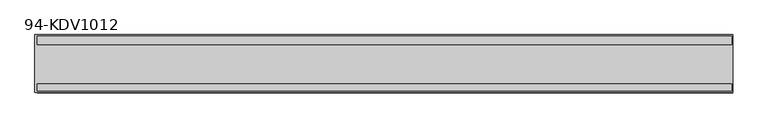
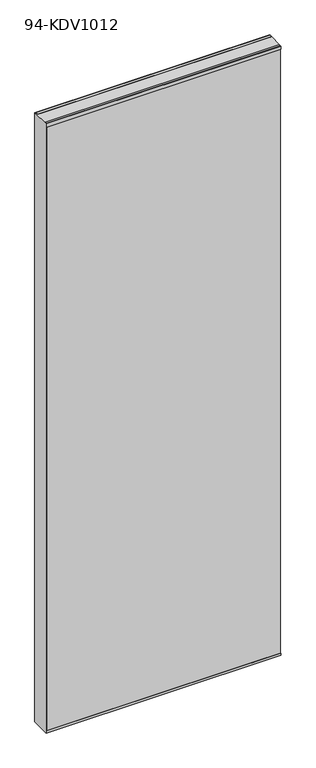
"""IFC4 building model written with IfcOpenShell, lengths in millimetres: plate geometry, PNX_VITRE_DV : 94-KDV1012."""

import ifcopenshell
import ifcopenshell.guid

model = None  # the IFC model being written
_history = None  # IfcOwnerHistory: only IFC2X3 demands one
_inside = {}  # id of a spatial element -> (the spatial element, [elements in it])
_under = {}  # id of a project, library or spatial element -> (it, [spatial elements below it])
_declared = {}  # id of a project -> (the project, [libraries it declares])
_typed = {}  # id of a type object -> (the type object, [elements of that type])
_made_of = {}  # id of a material, layer set ... -> (it, [elements and type objects made of it])


def new_model(schema):
    """Start an empty IFC model of exactly this schema.

    Asked for "IFC4X3", IfcOpenShell would pick the latest addendum, in which some entities
    have other attributes; the version numbers below select the first issue.
    IFC2X3 requires an IfcOwnerHistory on every rooted entity: one is made here for all.
    """
    global model, _history
    if schema == "IFC4X3":
        model = ifcopenshell.file(schema_version=(4, 3, 0, 0))
    else:
        model = ifcopenshell.file(schema=schema)
    _inside.clear()
    _under.clear()
    _declared.clear()
    _typed.clear()
    _made_of.clear()
    _history = None
    if model.schema == "IFC2X3":
        org = make("IfcOrganization", Name="unknown")
        user = make(
            "IfcPersonAndOrganization",
            ThePerson=make("IfcPerson", FamilyName="unknown"),
            TheOrganization=org,
        )
        app = make(
            "IfcApplication",
            ApplicationDeveloper=org,
            Version="unknown",
            ApplicationFullName="unknown",
            ApplicationIdentifier="unknown",
        )
        _history = make(
            "IfcOwnerHistory",
            OwningUser=user,
            OwningApplication=app,
            ChangeAction="ADDED",
            CreationDate=0,
        )
    return model


def make(cls, **values):
    """One entity of the class cls with the attributes given. An attribute that is None is left unset."""
    return model.create_entity(
        cls, **{name: value for name, value in values.items() if value is not None}
    )


def rooted(cls, **values):
    """An entity with a GlobalId (a new one), such as an element, a storey or a relation."""
    return make(cls, GlobalId=ifcopenshell.guid.new(), OwnerHistory=_history, **values)


def si_unit(unit_type, name, prefix=None):
    """IfcSIUnit, for example si_unit("LENGTHUNIT", "METRE", prefix="MILLI")."""
    return make("IfcSIUnit", UnitType=unit_type, Prefix=prefix, Name=name)


def assignment(units):
    """IfcUnitAssignment: the units of a project."""
    return None if units is None else make("IfcUnitAssignment", Units=units)


def point(xyz):
    """IfcCartesianPoint."""
    return None if xyz is None else make("IfcCartesianPoint", Coordinates=xyz)


def direction(xyz):
    """IfcDirection."""
    return None if xyz is None else make("IfcDirection", DirectionRatios=xyz)


def frame(location, z_axis=None, x_axis=None):
    """IfcAxis2Placement3D, a coordinate frame: its origin and axes. An axis left out is left unset."""
    return make(
        "IfcAxis2Placement3D",
        Location=point(location),
        Axis=direction(z_axis),
        RefDirection=direction(x_axis),
    )


def origin():
    """The frame at (0, 0, 0) with its axes left unset."""
    return frame((0.0, 0.0, 0.0))


def origin_with_axes():
    """The frame at (0, 0, 0) with the z axis (0, 0, 1) and the x axis (1, 0, 0) written out."""
    return frame((0.0, 0.0, 0.0), z_axis=(0.0, 0.0, 1.0), x_axis=(1.0, 0.0, 0.0))


def place(relative_to, where):
    """IfcLocalPlacement: puts the frame where relative to a parent placement (None: the world)."""
    return make(
        "IfcLocalPlacement", PlacementRelTo=relative_to, RelativePlacement=where
    )


def context(
    kind, dimensions, precision=None, world=None, true_north=None, identifier=None
):
    """IfcGeometricRepresentationContext, for example the 3D "Model" context."""
    return make(
        "IfcGeometricRepresentationContext",
        ContextIdentifier=identifier,
        ContextType=kind,
        CoordinateSpaceDimension=dimensions,
        Precision=precision,
        WorldCoordinateSystem=world,
        TrueNorth=true_north,
    )


def project(units=None, contexts=None):
    """IfcProject with its units and contexts."""
    return rooted(
        "IfcProject",
        Name="project",
        RepresentationContexts=contexts,
        UnitsInContext=assignment(units),
    )


def spatial(cls, under=None, at=None, **own):
    """A site, building, storey or space (cls), placed at a placement, below another one or the project."""
    s = rooted(cls, ObjectPlacement=at, **own)
    if under is not None:
        _under.setdefault(under.id(), (under, []))[1].append(s)
    return s


def polyline(points):
    """IfcPolyline through the points."""
    return make("IfcPolyline", Points=[point(p) for p in points])


def outline(outer, holes=None, kind="AREA"):
    """IfcArbitraryClosedProfileDef: a profile drawn as a closed curve; with holes, ...WithVoids."""
    if holes is None:
        return make("IfcArbitraryClosedProfileDef", ProfileType=kind, OuterCurve=outer)
    return make(
        "IfcArbitraryProfileDefWithVoids",
        ProfileType=kind,
        OuterCurve=outer,
        InnerCurves=holes,
    )


def extrude(swept, where, along, depth):
    """IfcExtrudedAreaSolid: the profile swept, set in the frame where, extruded along a direction by depth."""
    return make(
        "IfcExtrudedAreaSolid",
        SweptArea=swept,
        Position=where,
        ExtrudedDirection=direction(along),
        Depth=depth,
    )


def shape(context_of_items, identifier, shape_type, items):
    """IfcShapeRepresentation: the items that make up one representation, for example the "Body"."""
    return make(
        "IfcShapeRepresentation",
        ContextOfItems=context_of_items,
        RepresentationIdentifier=identifier,
        RepresentationType=shape_type,
        Items=items,
    )


def source(mapping_origin, context_of_items, identifier, shape_type, items):
    """IfcRepresentationMap: a shape defined once, which mapped items show again and again."""
    return make(
        "IfcRepresentationMap",
        MappingOrigin=mapping_origin,
        MappedRepresentation=shape(context_of_items, identifier, shape_type, items),
    )


def transform(
    local_origin,
    x_axis=None,
    y_axis=None,
    z_axis=None,
    scale=None,
    scale2=None,
    scale3=None,
    uniform=True,
):
    """IfcCartesianTransformationOperator3D, or its non-uniform kind. x_axis, y_axis, z_axis: its Axis1, 2, 3."""
    if uniform:
        return make(
            "IfcCartesianTransformationOperator3D",
            Axis1=direction(x_axis),
            Axis2=direction(y_axis),
            LocalOrigin=point(local_origin),
            Scale=scale,
            Axis3=direction(z_axis),
        )
    return make(
        "IfcCartesianTransformationOperator3DnonUniform",
        Axis1=direction(x_axis),
        Axis2=direction(y_axis),
        LocalOrigin=point(local_origin),
        Scale=scale,
        Axis3=direction(z_axis),
        Scale2=scale2,
        Scale3=scale3,
    )


def mapped(mapping_source, mapping_target):
    """IfcMappedItem: shows the shape of a source again, moved by a transform."""
    return make(
        "IfcMappedItem", MappingSource=mapping_source, MappingTarget=mapping_target
    )


def made_of(thing, what):
    """Note that an element or type object is made of a material, layer set ...; save() writes the relation."""
    if what is not None:
        _made_of.setdefault(what.id(), (what, []))[1].append(thing)
    return thing


def element(
    cls,
    number,
    at=None,
    inside=None,
    cuts=None,
    type_object=None,
    material=None,
    context=None,
    identifier="Body",
    shape_type=None,
    held_by="IfcProductDefinitionShape",
    body=None,
    shapes=None,
    **own,
):
    """One element of the class cls, such as IfcWall. Its Tag is "e" and its number.

    at: its placement. inside: the storey or other place that contains it. cuts: it is an
    opening in that element (IfcRelVoidsElement). A single representation is given by context,
    identifier, shape_type and body (its items); several are given by shapes. held_by: the class
    of the entity that holds the representations. save() writes the other relations.
    """
    e = rooted(cls, Tag="e%d" % number, ObjectPlacement=at, **own)
    if body is not None:
        shapes = [shape(context, identifier, shape_type, body)]
    if shapes is not None:
        e.Representation = make(held_by, Representations=shapes)
    if inside is not None:
        _inside.setdefault(inside.id(), (inside, []))[1].append(e)
    if cuts is not None:
        rooted(
            "IfcRelVoidsElement", RelatingBuildingElement=cuts, RelatedOpeningElement=e
        )
    if type_object is not None:
        _typed.setdefault(type_object.id(), (type_object, []))[1].append(e)
    return made_of(e, material)


def aggregate(whole, parts):
    """IfcRelAggregates: a whole, such as a stair, and the parts it consists of."""
    return rooted("IfcRelAggregates", RelatingObject=whole, RelatedObjects=parts)


def save(model, path):
    """Write the relations noted so far, then the file.

    IfcRelAggregates (storeys below a building ...), IfcRelContainedInSpatialStructure (elements
    in a storey), IfcRelDefinesByType, IfcRelAssociatesMaterial and IfcRelDeclares: one each for
    every whole, place, type object, material and project.
    """
    for whole, parts in _under.values():
        aggregate(whole, parts)
    for where, things in _inside.values():
        rooted(
            "IfcRelContainedInSpatialStructure",
            RelatedElements=things,
            RelatingStructure=where,
        )
    for kind, things in _typed.values():
        rooted("IfcRelDefinesByType", RelatedObjects=things, RelatingType=kind)
    for what, things in _made_of.values():
        rooted("IfcRelAssociatesMaterial", RelatedObjects=things, RelatingMaterial=what)
    for by, libraries in _declared.values():
        rooted("IfcRelDeclares", RelatingContext=by, RelatedDefinitions=libraries)
    model.write(path)


def plate_94_kdv1012_dc670d32(model_context):
    return source(origin(), model_context, "Body", "SweptSolid", [
        extrude(outline(polyline([(499.0, 39.5), (499.0, 27.5), (-497.0, 27.5), (-497.0, 39.5), (499.0, 39.5)])), origin_with_axes(), (0.0, 0.0, 1.0), 2739.0),
        extrude(outline(polyline([(499.0, -29.5), (499.0, -39.5), (-497.0, -39.5), (-497.0, -29.5), (499.0, -29.5)])), origin_with_axes(), (0.0, 0.0, 1.0), 2739.0),
        extrude(outline(polyline([(2739.0, -500.0), (0.0, -500.0), (0.0, 500.0), (9.0, 500.0), (9.0, -497.0), (2724.0, -497.0), (2724.0, 500.0), (2739.0, 500.0), (2739.0, -500.0)])), frame((0.0, -41.5, 0.0), z_axis=(0.0, 1.0, 0.0), x_axis=(0.0, 0.0, 1.0)), (0.0, 0.0, 1.0), 83.0),
    ])


if __name__ == "__main__":
    model = new_model("IFC4")
    model_context = context("Model", 3, world=origin())
    ifc_project = project(units=[si_unit("LENGTHUNIT", "METRE", prefix="MILLI")], contexts=[model_context])
    site = spatial("IfcSite", under=ifc_project)
    building = spatial("IfcBuilding", under=site)
    placement = place(None, origin())
    plate_94_kdv1012_shape = plate_94_kdv1012_dc670d32(model_context)
    element("IfcPlate", 1, ObjectType="PNX_VITRE_DV : 94-KDV1012", at=placement, inside=building, context=model_context, shape_type="MappedRepresentation", body=[
        mapped(plate_94_kdv1012_shape, transform((0.0, 0.0, 0.0), x_axis=(1.0, 0.0, 0.0), y_axis=(0.0, 1.0, 0.0), z_axis=(0.0, 0.0, 1.0))),
    ])
    save(model, "model.ifc")
